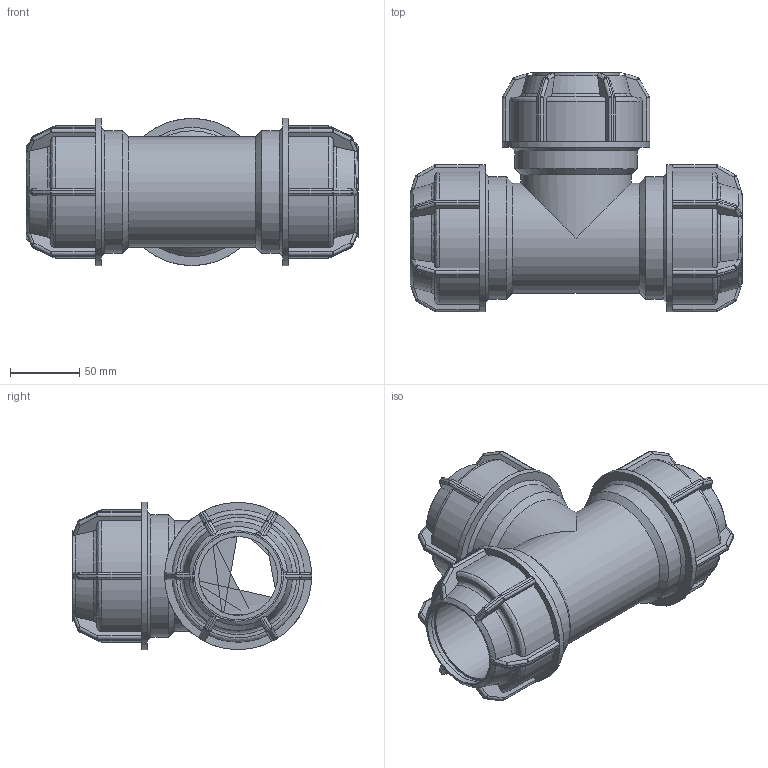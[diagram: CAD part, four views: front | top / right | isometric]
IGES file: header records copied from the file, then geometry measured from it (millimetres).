
Global section: file name: 140400063.ipt; native system: Autodesk Inventor 2015; preprocessor: unknown; author: KIM; date: 20180409.131037; units: millimetre
Bounding box: 239 x 172.5 x 106 mm (x, y, z)
Volume: 936711.3 mm3; surface area: 179864.7 mm2
Topology: 1 solids, 1 shells, 604 faces, 1456 edges, 848 vertices
Faces by surface type: plane 288, cylinder 170, sphere 72, revolution 50, cone 24
Full cylindrical faces by diameter (mm): 79.38 x2, 88.2 x3, 106 x3
